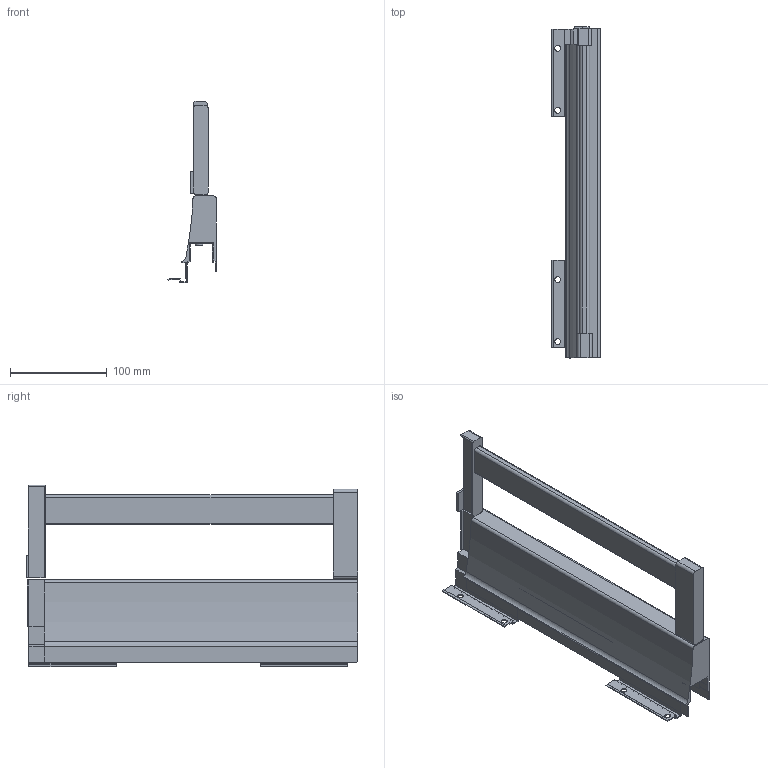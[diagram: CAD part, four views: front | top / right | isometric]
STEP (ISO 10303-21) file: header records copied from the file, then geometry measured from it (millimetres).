
FILE_DESCRIPTION (( 'STEP AP214' ), '1' );
FILE_NAME ('_XP Agantis Dekorseite H95 NL350 RE Rechteckreling.step', '2010-07-08T06:08:08', ( 'grass' ), ( '' ), 'SwSTEP 2.0', 'SolidWorks 2010', '' );
FILE_SCHEMA (( 'AUTOMOTIVE_DESIGN' ));
Length unit declared in the file: millimetre
Products named in the file (1): _XP Agantis Dekorseite H95 NL350 RE Rechteckreling
Bounding box: 50.01 x 342.45 x 187 mm (x, y, z)
Volume: 626666.9 mm3; surface area: 152031.8 mm2
Topology: 2 solids, 2 shells, 138 faces, 393 edges, 258 vertices
Faces by surface type: plane 103, cylinder 35
Entity records: 4519 total; most frequent: CARTESIAN_POINT 790, ORIENTED_EDGE 786, DIRECTION 742, EDGE_CURVE 393, VECTOR 322, LINE 322, VERTEX_POINT 258, AXIS2_PLACEMENT_3D 210
